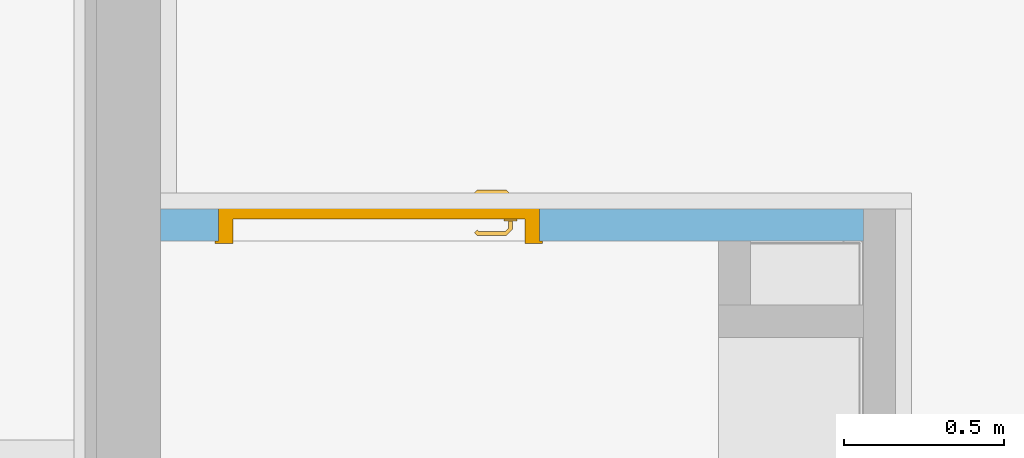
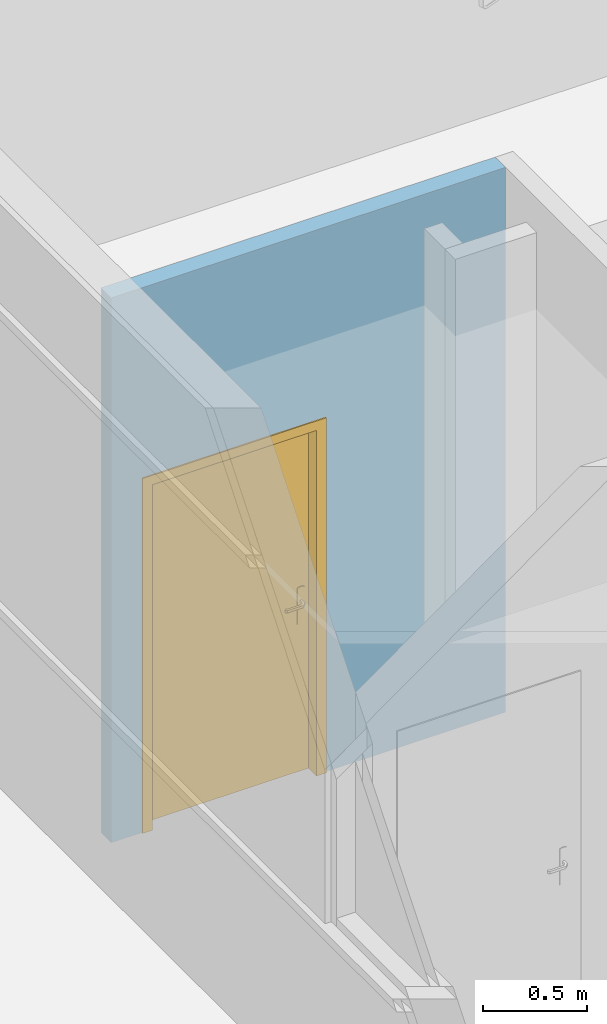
# One storey, part 97 of 137: 1 door, 1 opening, plus 1 element that does not belong to this part.
"""IFC2X3 building model written with IfcOpenShell, lengths in centimetres."""

from ifc_helpers import new_model, entity, si_unit, converted_unit, derived_unit, direction, frame, frame_2d, origin, place, context, subcontext, project, spatial, polyline, rectangle, extrude, clip, bounded_halfspace, faceted_brep, source, transform, mapped, material, material_list, layer, layer_set, layer_usage, type_object, type_shapes, element, fill, save


model = new_model("IFC2X3")

# Units and contexts
model_context = context("Model", 3, precision=0.001, world=origin(), true_north=direction((6.12303176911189e-17, 1.0)))
body_context = subcontext(model_context, "Body", "Model", "MODEL_VIEW")
ifc_project = project(units=[si_unit("LENGTHUNIT", "METRE", prefix="CENTI"), si_unit("AREAUNIT", "SQUARE_METRE"), si_unit("VOLUMEUNIT", "CUBIC_METRE"), converted_unit("PLANEANGLEUNIT", "DEGREE", entity("IfcRatioMeasure", 0.0174532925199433), si_unit("PLANEANGLEUNIT", "RADIAN"), dimensions=[0, 0, 0, 0, 0, 0, 0]), si_unit("MASSUNIT", "GRAM", prefix="KILO"), si_unit("TIMEUNIT", "SECOND"), si_unit("FREQUENCYUNIT", "HERTZ"), si_unit("THERMODYNAMICTEMPERATUREUNIT", "DEGREE_CELSIUS"), derived_unit("THERMALTRANSMITTANCEUNIT", [(si_unit("MASSUNIT", "GRAM", prefix="KILO"), 1), (si_unit("THERMODYNAMICTEMPERATUREUNIT", "KELVIN"), -1), (si_unit("TIMEUNIT", "SECOND"), -3)]), derived_unit("VOLUMETRICFLOWRATEUNIT", [(si_unit("LENGTHUNIT", "METRE"), 3), (si_unit("TIMEUNIT", "SECOND"), -1)]), si_unit("ELECTRICCURRENTUNIT", "AMPERE"), si_unit("ELECTRICVOLTAGEUNIT", "VOLT"), si_unit("POWERUNIT", "WATT"), si_unit("FORCEUNIT", "NEWTON", prefix="KILO"), si_unit("ILLUMINANCEUNIT", "LUX"), si_unit("LUMINOUSFLUXUNIT", "LUMEN"), si_unit("LUMINOUSINTENSITYUNIT", "CANDELA"), derived_unit("USERDEFINED", [(si_unit("MASSUNIT", "GRAM", prefix="KILO"), -1), (si_unit("LENGTHUNIT", "METRE"), -2), (si_unit("TIMEUNIT", "SECOND"), 3), (si_unit("LUMINOUSFLUXUNIT", "LUMEN"), 1)]), derived_unit("LINEARVELOCITYUNIT", [(si_unit("LENGTHUNIT", "METRE"), 1), (si_unit("TIMEUNIT", "SECOND"), -1)]), si_unit("PRESSUREUNIT", "PASCAL"), derived_unit("USERDEFINED", [(si_unit("LENGTHUNIT", "METRE"), -2), (si_unit("MASSUNIT", "GRAM", prefix="KILO"), 1), (si_unit("TIMEUNIT", "SECOND"), -2)])], contexts=[model_context])

# Site, building, storey
site_placement = place(None, frame((8.62739174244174, -249.285249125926, 0.0)))
site = spatial("IfcSite", under=ifc_project, at=site_placement, Name="Default", CompositionType="ELEMENT")
building_placement = place(site_placement, origin())
building = spatial("IfcBuilding", under=site, at=building_placement, CompositionType="ELEMENT")
storey_placement = place(building_placement, origin())
storey = spatial("IfcBuildingStorey", under=building, at=storey_placement, Name="RDC", CompositionType="ELEMENT", Elevation=-8.82465566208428e-11)

# Wall, opening, door
ifc_material_1 = material(Name="Stuc")
ifc_layer = layer(ifc_material_1, 10.0)
ifc_layer_set = layer_set([ifc_layer], Name="Mur de base:CIM 10")
ifc_layer_usage = layer_usage(ifc_layer_set, "AXIS2", "NEGATIVE", 5.0)
wall_type = type_object("IfcWallType", Name="Mur de base:CIM 10", PredefinedType="STANDARD", material=ifc_layer_set)
wall_placement = place(storey_placement, frame((3272.90482780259, 5662.48020813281, 0.0), z_axis=(0.0, 0.0, 1.0), x_axis=(-1.0, 0.0, 0.0)))
wall = element("IfcWallStandardCase", 1, at=wall_placement, inside=storey, type_object=wall_type, material=ifc_layer_usage, Name="Mur de base:CIM 10", ObjectType="Mur de base:CIM 10", context=body_context, shape_type="Clipping", body=[
    clip(extrude(rectangle(XDim=219.00000001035, YDim=9.99999999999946, at=frame_2d((109.500000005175, 4.39648317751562e-14), x_axis=(-1.0, 0.0))), origin(), (0.0, 0.0, 1.0), 320.000000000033), bounded_halfspace(frame((0.0, -5.0, 320.0), z_axis=(0.0, 0.0, -1.0), x_axis=(0.0, -1.0, 0.0)), True, frame((0.0, -5.0, 320.0)), polyline([(0.0, 0.0), (219.0, 0.0), (219.0, 10.0), (0.0, 10.0), (0.0, 0.0)]))),
])
opening_placement = place(wall_placement, frame((201.0, 5.0, 0.0)))
opening = element("IfcOpeningElement", 2, at=opening_placement, cuts=wall, Name="Simple(R)_bois_mu:93 x 204 cm:1", ObjectType="Opening", context=body_context, shape_type="SweptSolid", body=[
    extrude(rectangle(XDim=207.499999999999, YDim=99.9999999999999, at=frame_2d((103.749999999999, 50.0), x_axis=(1.0, 0.0))), frame((0.0, 0.0, 0.0), z_axis=(0.0, -1.0, 0.0), x_axis=(0.0, 0.0, 1.0)), (0.0, 0.0, 1.0), 10.0),
])
ifc_material_2 = material(Name="Porte - Poignée")
ifc_material_3 = material(Name="Porte - Cadre")
ifc_material_4 = material(Name="Porte - Panneau")
ifc_material_list_1 = material_list([ifc_material_2, ifc_material_3, ifc_material_4])
ifc_material_list_2 = material_list([ifc_material_2, ifc_material_3, ifc_material_4])
door_style = type_object("IfcDoorStyle", Name="93 x 204 cm", ConstructionType="NOTDEFINED", OperationType="SINGLE_SWING_RIGHT", ParameterTakesPrecedence=False, Sizeable=False, material=ifc_material_list_2)
shared_shape = source(origin(), body_context, "Body", "Brep", [
    faceted_brep([(8.79747013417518, 3.69999999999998, 100.778044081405), (8.3999999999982, 3.69999999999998, 100.699999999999), (8.39999999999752, 3.69999999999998, 99.2999999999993), (8.79747013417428, 3.69999999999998, 99.2219559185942), (9.20252986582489, 3.69999999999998, 99.2219559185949), (9.60000000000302, 3.69999999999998, 99.3000000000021), (9.60000000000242, 3.69999999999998, 100.699999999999), (9.2025298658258, 3.69999999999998, 100.778044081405), (9.60000000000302, 5.94852045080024, 99.3000000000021), (9.60000000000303, 5.94852045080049, 100.699999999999), (9.20252986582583, 6.1131579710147, 100.778044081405), (10.5838906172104, 7.49451872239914, 100.778044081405), (10.4161093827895, 7.89957845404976, 100.778044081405), (8.79747013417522, 6.2809392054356, 100.778044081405), (19.5684749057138, 6.84673156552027, 100.778044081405), (19.8548953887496, 7.13315204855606, 100.778044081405), (19.0884689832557, 7.89957845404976, 100.778044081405), (18.9206877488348, 7.49451872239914, 100.778044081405), (8.39999999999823, 6.44557672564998, 100.699999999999), (8.3999999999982, 6.44557672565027, 99.2999999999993), (8.79747013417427, 6.28093920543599, 99.2219559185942), (10.4161093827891, 7.8995784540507, 99.2219559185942), (10.58389061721, 7.49451872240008, 99.2219559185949), (9.20252986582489, 6.11315797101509, 99.2219559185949), (19.8548953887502, 7.13315204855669, 99.2219559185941), (19.5684749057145, 6.84673156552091, 99.2219559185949), (18.9206877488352, 7.49451872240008, 99.2219559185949), (19.088468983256, 7.8995784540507, 99.2219559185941), (10.7485281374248, 7.09704858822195, 99.3000000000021), (10.748528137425, 7.09704858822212, 100.699999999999), (10.2514718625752, 8.29704858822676, 100.699999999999), (10.2514718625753, 8.29704858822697, 99.2999999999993), (14.7522904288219, 7.09704858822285, 99.3000000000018), (18.7560502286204, 7.09704858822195, 99.3000000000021), (18.7560502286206, 7.09704858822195, 100.699999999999), (14.7522891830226, 7.09704858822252, 100.699999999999), (14.7522891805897, 7.71249275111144, 100.787811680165), (19.25310650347, 8.29704858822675, 100.699999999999), (15.2600577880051, 8.29704858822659, 100.699999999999), (19.2531065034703, 8.29704858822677, 99.2999999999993), (14.2445206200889, 8.29704858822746, 99.2999999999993), (14.7522892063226, 7.71249274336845, 99.2121883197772), (19.2874210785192, 6.56567773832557, 99.3000000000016), (20.1359492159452, 7.41420587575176, 99.2999999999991), (20.135949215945, 7.4142058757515, 100.699999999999), (19.287421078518, 6.5656777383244, 100.699999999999)], [[[0, 1, 2, 3, 4, 5, 6, 7]], [[6, 5, 8, 9]], [[9, 10, 7, 6]], [[10, 11, 12, 13, 0, 7]], [[14, 15, 16, 17]], [[13, 18, 1, 0]], [[2, 1, 18, 19]], [[19, 20, 3, 2]], [[20, 21, 22, 23, 4, 3]], [[24, 25, 26, 27]], [[23, 8, 5, 4]], [[9, 8, 28, 29]], [[29, 11, 10, 9]], [[12, 30, 18, 13]], [[19, 18, 30, 31]], [[31, 21, 20, 19]], [[22, 28, 8, 23]], [[29, 28, 32, 33, 34, 35]], [[11, 35, 36]], [[16, 37, 38]], [[30, 12, 38]], [[38, 12, 36]], [[36, 35, 17]], [[17, 16, 36]], [[35, 11, 29]], [[34, 17, 35]], [[11, 36, 12]], [[38, 36, 16]], [[31, 30, 38, 37, 39, 40]], [[40, 41, 21]], [[41, 40, 27]], [[21, 31, 40]], [[39, 27, 40]], [[41, 32, 22]], [[22, 21, 41]], [[26, 32, 41]], [[28, 22, 32]], [[32, 26, 33]], [[26, 41, 27]], [[42, 25, 24, 43, 44, 15, 14, 45]], [[34, 33, 42, 45]], [[45, 14, 17, 34]], [[15, 44, 37, 16]], [[39, 37, 44, 43]], [[43, 24, 27, 39]], [[25, 42, 33, 26]]]),
    faceted_brep([(8.79747013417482, -1.30000000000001, 100.778044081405), (9.20252986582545, -1.30000000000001, 100.778044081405), (9.6000000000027, -1.30000000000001, 100.699999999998), (9.60000000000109, -1.30000000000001, 99.3000000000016), (9.20252986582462, -1.30000000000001, 99.2219559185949), (8.79747013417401, -1.30000000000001, 99.2219559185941), (8.39999999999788, -1.30000000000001, 99.2999999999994), (8.39999999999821, -1.30000000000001, 100.699999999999), (8.39999999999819, -4.06509507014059, 100.699999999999), (8.7974701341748, -3.90045754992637, 100.778044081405), (10.402358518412, -5.50534593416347, 100.778044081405), (10.5701397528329, -5.10028620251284, 100.778044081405), (9.20252986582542, -3.73267631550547, 100.778044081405), (19.852181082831, -4.73891952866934, 100.778044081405), (19.5657605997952, -4.4524990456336, 100.778044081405), (18.9179734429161, -5.10028620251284, 100.778044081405), (19.085754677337, -5.50534593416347, 100.778044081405), (9.60000000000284, -3.56803879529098, 100.699999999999), (9.6000000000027, -3.56803879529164, 99.3000000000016), (9.20252986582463, -3.7326763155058, 99.2219559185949), (10.5701397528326, -5.10028620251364, 99.2219559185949), (10.4023585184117, -5.50534593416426, 99.2219559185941), (8.79747013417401, -3.9004575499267, 99.2219559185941), (19.5657605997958, -4.45249904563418, 99.2219559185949), (19.8521810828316, -4.73891952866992, 99.2219559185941), (19.0857546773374, -5.50534593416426, 99.2219559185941), (18.9179734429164, -5.10028620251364, 99.2219559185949), (8.39999999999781, -4.06509507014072, 99.2999999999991), (10.2377209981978, -5.90281606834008, 100.699999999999), (10.7347772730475, -4.70281606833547, 100.699999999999), (10.7347772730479, -4.70281606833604, 99.3000000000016), (10.2377209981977, -5.90281606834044, 99.2999999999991), (14.2307697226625, -5.90281606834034, 100.699999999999), (14.7440566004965, -5.31828027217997, 100.787811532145), (19.2503921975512, -5.90281606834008, 100.699999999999), (14.7440565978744, -4.70281606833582, 100.699999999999), (18.7533359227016, -4.70281606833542, 100.699999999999), (18.7533359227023, -4.70281606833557, 99.3000000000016), (14.7440563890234, -4.70281606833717, 99.3000000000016), (14.744056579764, -5.31828027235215, 99.2121884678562), (19.2503921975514, -5.90281606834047, 99.2999999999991), (15.2573433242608, -5.90281606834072, 99.2999999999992), (19.2847067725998, -4.1714452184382, 100.699999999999), (20.1332349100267, -5.01997335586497, 100.699999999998), (20.1332349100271, -5.01997335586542, 99.2999999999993), (19.2847067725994, -4.17144521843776, 99.3000000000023)], [[[0, 1, 2, 3, 4, 5, 6, 7]], [[8, 9, 0, 7]], [[9, 10, 11, 12, 1, 0]], [[13, 14, 15, 16]], [[12, 17, 2, 1]], [[3, 2, 17, 18]], [[18, 19, 4, 3]], [[19, 20, 21, 22, 5, 4]], [[23, 24, 25, 26]], [[22, 27, 6, 5]], [[7, 6, 27, 8]], [[28, 10, 9, 8]], [[11, 29, 17, 12]], [[18, 17, 29, 30]], [[30, 20, 19, 18]], [[21, 31, 27, 22]], [[8, 27, 31, 28]], [[32, 33, 10]], [[33, 32, 16]], [[10, 28, 32]], [[34, 16, 32]], [[33, 35, 11]], [[11, 10, 33]], [[15, 35, 33]], [[29, 11, 35]], [[35, 15, 36]], [[15, 33, 16]], [[30, 29, 35, 36, 37, 38]], [[20, 38, 39]], [[25, 40, 41]], [[31, 21, 41]], [[41, 21, 39]], [[39, 38, 26]], [[26, 25, 39]], [[38, 20, 30]], [[37, 26, 38]], [[20, 39, 21]], [[41, 39, 25]], [[28, 31, 41, 40, 34, 32]], [[42, 14, 13, 43, 44, 24, 23, 45]], [[43, 13, 16, 34]], [[14, 42, 36, 15]], [[37, 36, 42, 45]], [[45, 23, 26, 37]], [[24, 44, 40, 25]], [[34, 40, 44, 43]]]),
    faceted_brep([(10.03527618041, 3.19999999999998, 86.6003983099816), (11.0, 3.19999999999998, 87.0), (11.0, 3.19999999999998, 108.0), (10.03527618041, 3.19999999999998, 108.399601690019), (9.0, 3.19999999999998, 108.535898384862), (7.96472381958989, 3.19999999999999, 108.399601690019), (7.0, 3.19999999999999, 108.0), (7.0, 3.19999999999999, 87.0), (7.96472381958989, 3.19999999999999, 86.6003983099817), (9.0, 3.19999999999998, 86.4641016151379), (10.03527618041, 3.69999999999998, 108.399601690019), (11.0, 3.69999999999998, 108.0), (11.0, 3.69999999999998, 87.0), (10.03527618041, 3.69999999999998, 86.6003983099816), (9.0, 3.69999999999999, 86.4641016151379), (7.96472381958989, 3.69999999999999, 86.6003983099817), (7.0, 3.69999999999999, 87.0), (7.0, 3.69999999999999, 108.0), (7.96472381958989, 3.69999999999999, 108.399601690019), (9.0, 3.69999999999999, 108.535898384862)], [[[0, 1, 2, 3, 4, 5, 6, 7, 8, 9]], [[10, 11, 12, 13, 14, 15, 16, 17, 18, 19]], [[11, 10, 3, 2]], [[3, 10, 19, 4]], [[19, 18, 5, 4]], [[18, 17, 6, 5]], [[7, 6, 17, 16]], [[16, 15, 8, 7]], [[8, 15, 14, 9]], [[14, 13, 0, 9]], [[13, 12, 1, 0]], [[2, 1, 12, 11]]]),
    faceted_brep([(10.03527618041, -1.30000000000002, 86.6003983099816), (11.0, -1.30000000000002, 87.0), (11.0, -1.30000000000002, 108.0), (10.03527618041, -1.30000000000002, 108.399601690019), (9.0, -1.30000000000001, 108.535898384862), (7.9647238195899, -1.30000000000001, 108.399601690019), (7.0, -1.30000000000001, 108.0), (7.0, -1.30000000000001, 87.0), (7.96472381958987, -1.30000000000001, 86.6003983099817), (9.0, -1.30000000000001, 86.4641016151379), (10.03527618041, -0.800000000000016, 108.399601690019), (11.0, -0.800000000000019, 108.0), (11.0, -0.800000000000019, 87.0), (10.03527618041, -0.800000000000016, 86.6003983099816), (9.0, -0.800000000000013, 86.4641016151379), (7.96472381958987, -0.800000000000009, 86.6003983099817), (7.0, -0.800000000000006, 87.0), (7.0, -0.800000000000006, 108.0), (7.9647238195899, -0.800000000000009, 108.399601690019), (9.0, -0.800000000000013, 108.535898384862)], [[[0, 1, 2, 3, 4, 5, 6, 7, 8, 9]], [[10, 11, 12, 13, 14, 15, 16, 17, 18, 19]], [[16, 15, 8, 7]], [[8, 15, 14, 9]], [[14, 13, 0, 9]], [[13, 12, 1, 0]], [[2, 1, 12, 11]], [[11, 10, 3, 2]], [[3, 10, 19, 4]], [[19, 18, 5, 4]], [[18, 17, 6, 5]], [[7, 6, 17, 16]]]),
    faceted_brep([(0.0, 0.0, 0.0), (0.0, 10.0, 0.0), (-1.0, 10.0, 0.0), (-1.0, 10.8000000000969, 0.0), (4.49999999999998, 10.8000000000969, 0.0), (4.49999999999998, 3.2, 0.0), (3.49999999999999, 3.2, 0.0), (3.49999999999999, -0.799999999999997, 0.0), (-1.0, -0.799999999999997, 0.0), (-1.0, 0.0, 0.0), (0.0, 0.0, 207.499999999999), (0.0, 10.0, 207.499999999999), (100.0, 10.0, 207.499999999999), (100.0, 10.0, 0.0), (101.0, 10.0, 0.0), (101.0, 10.0, 208.499999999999), (-1.0, 10.0, 208.499999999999), (-1.0, 10.8000000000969, 208.499999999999), (101.0, 10.8000000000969, 208.499999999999), (101.0, 10.8000000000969, 0.0), (95.5, 10.8000000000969, 0.0), (95.5, 10.8000000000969, 203.0), (4.49999999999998, 10.8000000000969, 203.0), (4.49999999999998, 3.2, 203.0), (95.5, 3.2, 203.0), (95.5, 3.2, 0.0), (96.5, 3.2, 0.0), (96.5, 3.2, 204.0), (3.49999999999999, 3.2, 204.0), (3.49999999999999, -0.799999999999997, 204.0), (96.5, -0.799999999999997, 204.0), (96.5, -0.799999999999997, 0.0), (101.0, -0.799999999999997, 0.0), (101.0, -0.799999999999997, 208.499999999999), (-1.0, -0.799999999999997, 208.499999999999), (-1.0, 0.0, 208.499999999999), (101.0, 0.0, 208.499999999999), (101.0, 0.0, 0.0), (100.0, 0.0, 0.0), (100.0, 0.0, 207.499999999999)], [[[0, 1, 2, 3, 4, 5, 6, 7, 8, 9]], [[1, 0, 10, 11]], [[2, 1, 11, 12, 13, 14, 15, 16]], [[3, 2, 16, 17]], [[4, 3, 17, 18, 19, 20, 21, 22]], [[5, 4, 22, 23]], [[6, 5, 23, 24, 25, 26, 27, 28]], [[7, 6, 28, 29]], [[8, 7, 29, 30, 31, 32, 33, 34]], [[9, 8, 34, 35]], [[0, 9, 35, 36, 37, 38, 39, 10]], [[12, 39, 38, 13]], [[38, 37, 32, 31, 26, 25, 20, 19, 14, 13]], [[18, 15, 14, 19]], [[24, 21, 20, 25]], [[30, 27, 26, 31]], [[36, 33, 32, 37]], [[11, 10, 39, 12]], [[17, 16, 15, 18]], [[23, 22, 21, 24]], [[29, 28, 27, 30]], [[35, 34, 33, 36]]]),
    faceted_brep([(3.49999999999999, -0.799999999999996, 204.0), (3.49999999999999, -0.799999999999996, 0.0), (96.5, -0.799999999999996, 0.0), (96.5, -0.799999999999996, 204.0), (3.49999999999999, 3.2, 204.0), (96.5, 3.2, 204.0), (96.5, 3.2, 0.0), (3.49999999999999, 3.2, 0.0)], [[[0, 1, 2, 3]], [[4, 5, 6, 7]], [[1, 0, 4, 7]], [[2, 1, 7, 6]], [[3, 2, 6, 5]], [[0, 3, 5, 4]]]),
])
type_shapes(door_style, [shared_shape])
door_placement = place(opening_placement, frame((-100.0, -10.0, 0.0)))
door = element("IfcDoor", 3, at=door_placement, inside=storey, type_object=door_style, material=ifc_material_list_1, Name="Simple(R)_bois_mu:93 x 204 cm", ObjectType="93 x 204 cm", OverallHeight=207.499999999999, OverallWidth=99.9999999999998, context=body_context, shape_type="MappedRepresentation", body=[
    mapped(shared_shape, transform((0.0, 0.0, 0.0), scale=1.0)),
])
fill(opening, door)

save(model, "model.ifc")
